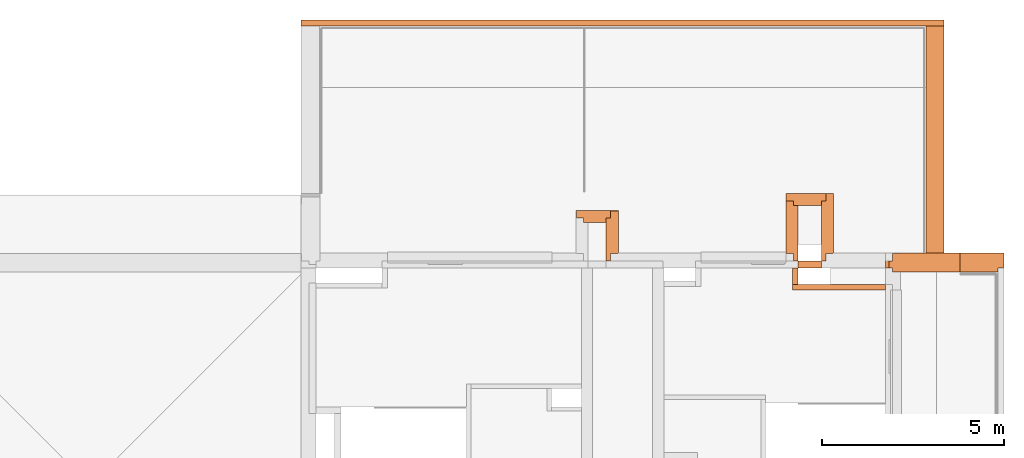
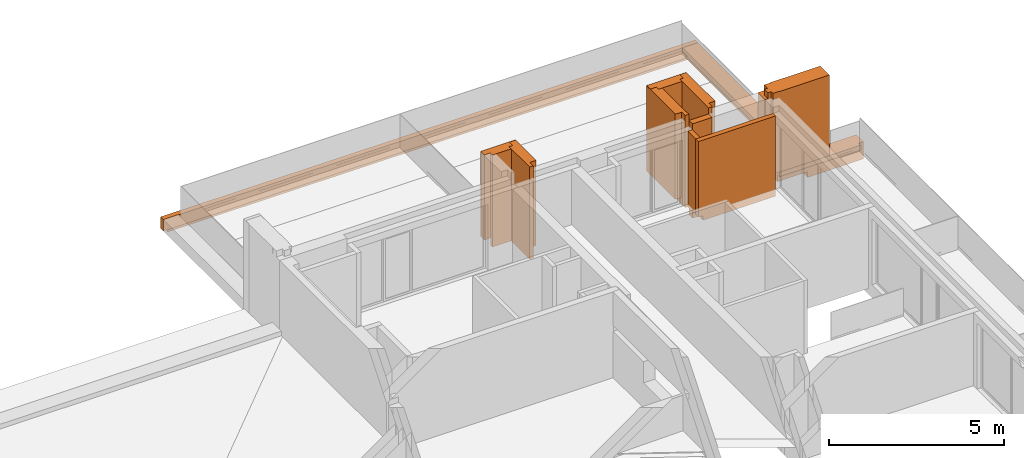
# One storey, part 30 of 30: 12 proxies.
"""IFC2X3 building model written with IfcOpenShell, lengths in millimetres."""

from ifc_helpers import new_model, entity, si_unit, converted_unit, derived_unit, money_unit, direction, frame, origin_with_axes, place, context, subcontext, project, spatial, faceted_brep, material, material_list, type_object, element, save


model = new_model("IFC2X3")

# Units and contexts
model_context = context("Model", 3, precision=0.01, world=origin_with_axes(), true_north=direction((0.34421633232, 0.938890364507)))
body_context = subcontext(model_context, "Body", "Model", "MODEL_VIEW")
ifc_project = project(units=[si_unit("LENGTHUNIT", "METRE", prefix="MILLI"), si_unit("AREAUNIT", "SQUARE_METRE"), si_unit("VOLUMEUNIT", "CUBIC_METRE"), converted_unit("PLANEANGLEUNIT", "DEGREE", entity("IfcPlaneAngleMeasure", 0.0174532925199), si_unit("PLANEANGLEUNIT", "RADIAN"), dimensions=[0, 0, 0, 0, 0, 0, 0]), si_unit("SOLIDANGLEUNIT", "STERADIAN"), money_unit("USD"), converted_unit("TIMEUNIT", "Year", entity("IfcTimeMeasure", 31556926.0), si_unit("TIMEUNIT", "SECOND"), dimensions=[0, 0, 1, 0, 0, 0, 0]), si_unit("MASSUNIT", "GRAM", prefix="KILO"), si_unit("THERMODYNAMICTEMPERATUREUNIT", "DEGREE_CELSIUS"), si_unit("LUMINOUSINTENSITYUNIT", "LUMEN"), si_unit("ENERGYUNIT", "JOULE", prefix="MEGA"), derived_unit("THERMALCONDUCTANCEUNIT", [(si_unit("POWERUNIT", "WATT"), 1), (si_unit("LENGTHUNIT", "METRE"), -1), (si_unit("THERMODYNAMICTEMPERATUREUNIT", "KELVIN"), -1)]), derived_unit("SPECIFICHEATCAPACITYUNIT", [(si_unit("ENERGYUNIT", "JOULE"), 1), (si_unit("MASSUNIT", "GRAM", prefix="KILO"), -1), (si_unit("THERMODYNAMICTEMPERATUREUNIT", "KELVIN"), -1)]), derived_unit("MASSDENSITYUNIT", [(si_unit("MASSUNIT", "GRAM", prefix="KILO"), 1), (si_unit("VOLUMEUNIT", "CUBIC_METRE"), -1)])], contexts=[model_context])

# Site, building, storey
site_placement = place(None, origin_with_axes())
site = spatial("IfcSite", under=ifc_project, at=site_placement, Name="USTRONIE MORSKIE", CompositionType="ELEMENT")
building_placement = place(site_placement, origin_with_axes())
building = spatial("IfcBuilding", under=site, at=building_placement, Name="Budynek", CompositionType="ELEMENT")
storey_placement = place(building_placement, frame((0.0, 0.0, 16000.0), z_axis=(0.0, 0.0, 1.0), x_axis=(1.0, 0.0, 0.0)))
storey = spatial("IfcBuildingStorey", under=building, at=storey_placement, Name="ANTRESOLA - KOND. TECHNICZNA", CompositionType="ELEMENT", Elevation=16000.0)

# Proxies
ifc_material_1 = material(Name="Bloczki silikatowe")
building_element_proxy_type_1 = type_object("IfcBuildingElementProxyType", Name="Bloczki silikatowe 150", PredefinedType="NOTDEFINED")
proxy_1_placement = place(storey_placement, frame((421867.920919, 744151.199036, 0.0), z_axis=(0.0, 0.0, 1.0), x_axis=(0.0, 1.0, 0.0)))
element("IfcBuildingElementProxy", 1, at=proxy_1_placement, inside=storey, type_object=building_element_proxy_type_1, material=ifc_material_1, Name="SW-03", context=body_context, shape_type="Brep", body=[
    faceted_brep([(450.0, 150.0, 0.0), (450.0, 150.0, 2640.0), (450.0, 0.0, 2640.0), (450.0, 0.0, 0.0), (0.0, 150.0, 0.0), (0.0, 150.0, 2640.0), (0.0, 0.0, 2640.0), (0.0, 0.0, 0.0)], [[[0, 1, 2, 3]], [[4, 5, 1, 0]], [[5, 6, 2, 1]], [[3, 2, 6, 7]], [[7, 4, 0, 3]], [[7, 6, 5, 4]]]),
])
proxy_2_placement = place(storey_placement, frame((424367.920919, 744151.199036, -160.0), z_axis=(0.0, 0.0, 1.0), x_axis=(-1.0, 0.0, 0.0)))
element("IfcBuildingElementProxy", 2, at=proxy_2_placement, inside=storey, type_object=building_element_proxy_type_1, material=ifc_material_1, Name="SW-03", context=body_context, shape_type="Brep", body=[
    faceted_brep([(2650.0, 0.0, 160.0), (2650.0, 0.0, 2800.0), (2500.0, 0.0, 2800.0), (100.0, 0.0, 2800.0), (100.0, 0.0, 0.0), (2500.0, 0.0, 0.0), (2500.0, 0.0, 160.0), (2650.0, 150.0, 160.0), (2650.0, 150.0, 2800.0), (100.0, 150.0, 2800.0), (100.0, 150.0, 0.0), (2500.0, 150.0, 0.0), (2500.0, 150.0, 160.0)], [[[0, 1, 2, 3, 4, 5, 6]], [[7, 8, 1, 0]], [[8, 9, 3, 2, 1]], [[4, 3, 9, 10]], [[4, 10, 11, 5]], [[11, 12, 6, 5]], [[6, 12, 7, 0]], [[10, 9, 8, 7, 12, 11]]]),
])
ifc_material_2 = material(Name="Beton konstrukcyjny B25")
building_element_proxy_type_2 = type_object("IfcBuildingElementProxyType", Name="Beton konstrukcyjny B25 200", PredefinedType="NOTDEFINED")
proxy_3_placement = place(storey_placement, frame((421867.920919, 744701.199036, -450.0), z_axis=(0.0, 0.0, 1.0), x_axis=(1.0, 0.0, 0.0)))
element("IfcBuildingElementProxy", 3, at=proxy_3_placement, inside=storey, type_object=building_element_proxy_type_2, material=ifc_material_2, Name="SW-01", context=body_context, shape_type="Brep", body=[
    faceted_brep([(650.0, 100.0, 3290.0), (0.0, 100.0, 3290.0), (0.0, -100.0, 3290.0), (650.0, -100.0, 3290.0), (650.0, 100.0, 0.0), (0.0, 100.0, 0.0), (0.0, -100.0, 0.0), (650.0, -100.0, 0.0)], [[[0, 1, 2, 3]], [[4, 5, 1, 0]], [[1, 5, 6, 2]], [[3, 2, 6, 7]], [[7, 4, 0, 3]], [[7, 6, 5, 4]]]),
])
ifc_material_3 = material(Name="Tynk zewnętrzny")
ifc_material_4 = material(Name="Wełna ELEW")
ifc_material_list_1 = material_list([ifc_material_3, ifc_material_4, ifc_material_2, ifc_material_4, ifc_material_3])
building_element_proxy_type_3 = type_object("IfcBuildingElementProxyType", Name="BALKON bok 01 520", PredefinedType="NOTDEFINED")
proxy_4_placement = place(storey_placement, frame((427432.914603, 744701.199036, -360.000002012), z_axis=(0.0, 0.0, 1.0), x_axis=(-1.0, 0.0, 0.0)))
element("IfcBuildingElementProxy", 4, at=proxy_4_placement, inside=storey, type_object=building_element_proxy_type_3, material=ifc_material_list_1, Name="Œciana-006", context=body_context, shape_type="Brep", body=[
    faceted_brep([(75.0, 210.0, 439.999999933), (2754.99368373, 210.0, 439.999999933), (2754.99368373, 200.0, 439.999999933), (75.0, 200.0, 439.999999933), (75.0, 210.0, 600.000002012), (2754.99368373, 210.0, 600.000002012), (2754.99368373, 200.0, 600.000002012), (75.0, 200.0, 600.000002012)], [[[0, 1, 2, 3]], [[1, 0, 4, 5]], [[2, 1, 5, 6]], [[2, 6, 7, 3]], [[0, 3, 7, 4]], [[7, 6, 5, 4]]]),
    faceted_brep([(75.0, 200.0, 439.999999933), (2754.99368373, 200.0, 439.999999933), (2754.99368373, 99.9999999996, 439.999999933), (1764.99368373, 99.9999999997, 439.999999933), (75.0, 99.9999999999, 439.999999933), (75.0, 200.0, 600.000002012), (2754.99368373, 200.0, 600.000002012), (2754.99368373, 99.9999999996, 600.000002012), (75.0, 99.9999999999, 600.000002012)], [[[0, 1, 2, 3, 4]], [[1, 0, 5, 6]], [[2, 1, 6, 7]], [[3, 2, 7, 8, 4]], [[0, 4, 8, 5]], [[8, 7, 6, 5]]]),
    faceted_brep([(1764.99368373, -100.0, 199.999999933), (2754.99368373, -100.0, 199.999999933), (2754.99368373, -100.0, 600.000002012), (-75.0, -100.0, 600.000002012), (-75.0, -100.0, 0.0), (1764.99368373, -100.0, -6.70787869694e-08), (1764.99368373, 99.9999999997, 199.999999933), (2754.99368373, 99.9999999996, 199.999999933), (2754.99368373, 99.9999999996, 600.000002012), (-75.0, 100.0, 600.000002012), (-75.0, 100.0, 0.0), (1764.99368373, 99.9999999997, -6.70787869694e-08)], [[[0, 1, 2, 3, 4, 5]], [[1, 0, 6, 7]], [[1, 7, 8, 2]], [[3, 2, 8, 9]], [[9, 10, 4, 3]], [[11, 5, 4, 10]], [[0, 5, 11, 6]], [[6, 11, 10, 9, 8, 7]]]),
    faceted_brep([(1764.99368373, -100.0, 0.0), (1764.99368373, -300.0, 0.0), (-85.0, -300.0, 0.0), (-85.0, -100.0, 0.0), (1764.99368373, -100.0, 600.000002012), (1764.99368373, -300.0, 600.000002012), (-85.0, -300.0, 600.000002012), (-85.0, -100.0, 600.000002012)], [[[0, 1, 2, 3]], [[1, 0, 4, 5]], [[1, 5, 6, 2]], [[7, 3, 2, 6]], [[4, 0, 3, 7]], [[5, 4, 7, 6]]]),
    faceted_brep([(1944.99368373, -100.0, 439.999999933), (1944.99368373, -300.0, 439.999999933), (1944.99368373, -300.0, 600.000002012), (1944.99368373, -100.0, 600.000002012), (2754.99368373, -300.0, 439.999999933), (2754.99368373, -100.0, 439.999999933), (2754.99368373, -300.0, 600.000002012), (2754.99368373, -100.0, 600.000002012)], [[[0, 1, 2, 3]], [[4, 1, 0, 5]], [[1, 4, 6, 2]], [[2, 6, 7, 3]], [[5, 0, 3, 7]], [[4, 5, 7, 6]]]),
    faceted_brep([(2044.99368373, -300.0, 439.999999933), (2044.99368373, -310.0, 439.999999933), (2044.99368373, -310.0, 600.000002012), (2044.99368373, -300.0, 600.000002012), (2754.99368373, -310.0, 439.999999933), (2754.99368373, -300.0, 439.999999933), (2754.99368373, -310.0, 600.000002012), (2754.99368373, -300.0, 600.000002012)], [[[0, 1, 2, 3]], [[4, 1, 0, 5]], [[1, 4, 6, 2]], [[2, 6, 7, 3]], [[5, 0, 3, 7]], [[4, 5, 7, 6]]]),
    faceted_brep([(1564.99368373, -310.0, 0.0), (-85.0, -310.0, 0.0), (-85.0, -300.0, 0.0), (1564.99368373, -300.0, 0.0), (1564.99368373, -310.0, 600.000002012), (-85.0, -310.0, 600.000002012), (-85.0, -300.0, 600.000002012), (1564.99368373, -300.0, 600.000002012)], [[[0, 1, 2, 3]], [[4, 5, 1, 0]], [[2, 1, 5, 6]], [[3, 2, 6, 7]], [[3, 7, 4, 0]], [[7, 6, 5, 4]]]),
])
proxy_5_placement = place(storey_placement, frame((424367.920919, 744701.199036, 240.0), z_axis=(0.0, 0.0, 1.0), x_axis=(1.0, 0.0, 0.0)))
element("IfcBuildingElementProxy", 5, at=proxy_5_placement, inside=storey, type_object=building_element_proxy_type_3, material=ifc_material_list_1, Name="Œciana-007", context=body_context, shape_type="Brep", body=[
    faceted_brep([(100.0, 309.999999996, 2600.0), (300.0, 309.999999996, 2600.0), (300.0, 309.999999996, 2810.0), (1950.0, 310.0, 2810.0), (1950.0, 310.0, 0.0), (-100.0, 310.0, 0.0), (-100.0, 310.0, 2600.0), (0.0, 309.999999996, 2600.0), (100.0, 300.0, 2600.0), (300.0, 300.0, 2600.0), (300.0, 300.0, 2810.0), (1950.0, 300.0, 2810.0), (1950.0, 300.0, 0.0), (-100.0, 300.0, 0.0), (-100.0, 300.0, 2600.0), (0.0, 300.0, 2600.0)], [[[0, 1, 2, 3, 4, 5, 6, 7]], [[1, 0, 8, 9]], [[10, 2, 1, 9]], [[2, 10, 11, 3]], [[4, 3, 11, 12]], [[12, 13, 5, 4]], [[13, 14, 6, 5]], [[15, 7, 6, 14]], [[8, 0, 7, 15]], [[9, 8, 15, 14, 13, 12, 11, 10]]]),
    faceted_brep([(0.0, 300.0, 2600.0), (100.0, 300.0, 2600.0), (100.0, 300.0, 2810.0), (1950.0, 300.0, 2810.0), (1950.0, 300.0, 0.0), (-100.0, 300.0, 0.0), (-100.0, 300.0, 2600.0), (0.0, 100.0, 2600.0), (100.0, 100.0, 2600.0), (100.0, 100.0, 2810.0), (1950.0, 100.0, 2810.0), (1950.0, 100.0, 0.0), (-100.0, 100.0, 0.0), (-100.0, 100.0, 2600.0)], [[[0, 1, 2, 3, 4, 5, 6]], [[1, 0, 7, 8]], [[9, 2, 1, 8]], [[2, 9, 10, 3]], [[4, 3, 10, 11]], [[11, 12, 5, 4]], [[12, 13, 6, 5]], [[7, 0, 6, 13]], [[8, 7, 13, 12, 11, 10, 9]]]),
    faceted_brep([(1950.0, 100.0, 0.0), (-100.0, 100.0, 0.0), (-100.0, 100.0, 2600.0), (0.0, 100.0, 2600.0), (0.0, 100.0, 2810.00000179), (1950.0, 100.0, 2810.0), (1950.0, -99.9999999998, 0.0), (-100.0, -100.0, 0.0), (-100.0, -100.0, 2600.0), (0.0, -100.0, 2600.0), (0.0, -100.0, 2810.00000179), (1950.0, -99.9999999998, 2810.0)], [[[0, 1, 2, 3, 4, 5]], [[6, 7, 1, 0]], [[7, 8, 2, 1]], [[3, 2, 8, 9]], [[9, 10, 4, 3]], [[5, 4, 10, 11]], [[0, 5, 11, 6]], [[9, 8, 7, 6, 11, 10]]]),
    faceted_brep([(100.0, -100.0, 2600.0), (100.0, -100.0, 2810.0), (1950.0, -99.9999999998, 2810.0), (1950.0, -99.9999999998, 0.0), (100.0, -100.0, 0.0), (100.0, -200.0, 2810.0), (100.0, -200.0, 2600.0), (1950.0, -200.0, 2810.0), (1950.0, -200.0, 0.0), (100.0, -200.0, 0.0)], [[[0, 1, 2, 3, 4]], [[5, 1, 0, 6]], [[1, 5, 7, 2]], [[3, 2, 7, 8]], [[9, 4, 3, 8]], [[6, 0, 4, 9]], [[5, 6, 9, 8, 7]]]),
    faceted_brep([(300.0, -200.0, 2600.0), (300.0, -200.0, 2810.0), (1950.0, -200.0, 2810.0), (1950.0, -200.0, 0.0), (300.0, -200.0, 0.0), (300.0, -210.0, 2810.0), (300.0, -210.0, 2600.0), (1950.0, -210.0, 2810.0), (1950.0, -210.0, 0.0), (300.0, -210.0, 0.0)], [[[0, 1, 2, 3, 4]], [[5, 1, 0, 6]], [[1, 5, 7, 2]], [[3, 2, 7, 8]], [[9, 4, 3, 8]], [[6, 0, 4, 9]], [[5, 6, 9, 8, 7]]]),
])
ifc_material_list_2 = material_list([ifc_material_3, ifc_material_4, ifc_material_1, ifc_material_4, ifc_material_3])
building_element_proxy_type_4 = type_object("IfcBuildingElementProxyType", Name="18 SILIKAT+20-10 500", PredefinedType="NOTDEFINED")
proxy_6_placement = place(storey_placement, frame((425667.920919, 751316.196933, -360.00000208), z_axis=(0.0, 0.0, 1.0), x_axis=(0.0, -1.0, 0.0)))
element("IfcBuildingElementProxy", 6, at=proxy_6_placement, inside=storey, type_object=building_element_proxy_type_4, material=ifc_material_list_2, Name="Œciana-006", context=body_context, shape_type="Brep", body=[
    faceted_brep([(6304.99789687, 200.0, 600.00000208), (6304.99789687, 210.0, 600.00000208), (75.0, 210.0, 600.00000208), (75.0, 200.0, 600.00000208), (6304.99789687, 200.0, 0.0), (6304.99789687, 210.0, 0.0), (75.0, 210.0, 0.0), (75.0, 200.0, 0.0)], [[[0, 1, 2, 3]], [[1, 0, 4, 5]], [[1, 5, 6, 2]], [[7, 3, 2, 6]], [[4, 0, 3, 7]], [[5, 4, 7, 6]]]),
    faceted_brep([(6314.99789687, 0.0, 600.00000208), (6314.99789687, 200.0, 600.00000208), (75.0, 200.0, 600.00000208), (75.0, 0.0, 600.00000208), (6314.99789687, 0.0, 0.0), (6314.99789687, 200.0, 0.0), (75.0, 200.0, 0.0), (75.0, 0.0, 0.0)], [[[0, 1, 2, 3]], [[1, 0, 4, 5]], [[1, 5, 6, 2]], [[7, 3, 2, 6]], [[4, 0, 3, 7]], [[5, 4, 7, 6]]]),
    faceted_brep([(6514.99789687, 2.84217094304e-10, 200.0), (75.0, 0.0, 200.0), (75.0, 0.0, 600.00000208), (6514.99789687, 0.0, 600.00000208), (6514.99789687, -180.0, 200.0), (75.0, -180.0, 200.0), (75.0, -180.0, 600.00000208), (6514.99789687, -180.0, 600.00000208)], [[[0, 1, 2, 3]], [[1, 0, 4, 5]], [[1, 5, 6, 2]], [[7, 3, 2, 6]], [[4, 0, 3, 7]], [[4, 7, 6, 5]]]),
    faceted_brep([(6314.99789687, -180.0, 440.0), (75.0, -180.0, 440.0), (75.0, -180.0, 600.00000208), (6314.99789687, -180.0, 600.00000208), (6314.99789687, -280.0, 440.0), (75.0, -280.0, 440.0), (75.0, -280.0, 600.00000208), (6314.99789687, -280.0, 600.00000208)], [[[0, 1, 2, 3]], [[1, 0, 4, 5]], [[1, 5, 6, 2]], [[7, 3, 2, 6]], [[4, 0, 3, 7]], [[4, 7, 6, 5]]]),
    faceted_brep([(6304.99789687, -280.0, 440.0), (75.0, -280.0, 440.0), (75.0, -280.0, 600.00000208), (6304.99789687, -280.0, 600.00000208), (6304.99789687, -290.0, 440.0), (75.0, -290.0, 440.0), (75.0, -290.0, 600.00000208), (6304.99789687, -290.0, 600.00000208)], [[[0, 1, 2, 3]], [[1, 0, 4, 5]], [[1, 5, 6, 2]], [[7, 3, 2, 6]], [[4, 0, 3, 7]], [[4, 7, 6, 5]]]),
])
ifc_material_list_3 = material_list([ifc_material_1, ifc_material_4, ifc_material_3])
building_element_proxy_type_5 = type_object("IfcBuildingElementProxyType", Name="12+20 330", PredefinedType="NOTDEFINED")
proxy_7_placement = place(storey_placement, frame((416737.920089, 744701.199036, -160.0), z_axis=(0.0, 0.0, 1.0), x_axis=(0.0, 1.0, 0.0)))
element("IfcBuildingElementProxy", 7, at=proxy_7_placement, inside=storey, type_object=building_element_proxy_type_5, material=ifc_material_list_3, Name="Ściana-009", context=body_context, shape_type="Brep", body=[
    faceted_brep([(1269.99914858, 120.0, 3210.0), (100.0, 120.0, 3210.0), (100.0, 0.0, 3210.0), (1269.99914858, 0.0, 3210.0), (100.0, 120.0, 0.0), (100.0, 120.0, 3000.0), (1269.99914858, 120.0, 0.0), (100.0, 0.0, 0.0), (1269.99914858, 0.0, 0.0)], [[[0, 1, 2, 3]], [[4, 5, 1, 0, 6]], [[7, 2, 1, 5, 4]], [[3, 2, 7, 8]], [[0, 3, 8, 6]], [[8, 7, 4, 6]]]),
    faceted_brep([(300.0, -200.0, 239.99999792), (1469.99914858, -200.0, 239.99999792), (1469.99914858, -200.0, 3210.0), (300.0, -200.0, 3210.0), (1469.99914858, 0.0, 239.99999792), (300.0, 0.0, 239.99999792), (1469.99914858, 0.0, 3210.0), (300.0, 0.0, 3210.0)], [[[0, 1, 2, 3]], [[4, 1, 0, 5]], [[1, 4, 6, 2]], [[6, 7, 3, 2]], [[5, 0, 3, 7]], [[4, 5, 7, 6]]]),
    faceted_brep([(310.0, -210.0, 239.99999792), (1479.99914858, -210.0, 239.99999792), (1479.99914858, -210.0, 3210.0), (310.0, -210.0, 3210.0), (1479.99914858, -200.0, 239.99999792), (310.0, -200.0, 239.99999792), (1479.99914858, -200.0, 3210.0), (310.0, -200.0, 3210.0)], [[[0, 1, 2, 3]], [[4, 1, 0, 5]], [[1, 4, 6, 2]], [[6, 7, 3, 2]], [[5, 0, 3, 7]], [[4, 5, 7, 6]]]),
])
proxy_8_placement = place(storey_placement, frame((422577.920919, 744701.199036, -160.0), z_axis=(0.0, 0.0, 1.0), x_axis=(0.0, 1.0, 0.0)))
element("IfcBuildingElementProxy", 8, at=proxy_8_placement, inside=storey, type_object=building_element_proxy_type_5, material=ifc_material_list_3, Name="Ściana-009", context=body_context, shape_type="Brep", body=[
    faceted_brep([(100.0, 60.0, 3210.0), (100.0, -60.0, 3210.0), (1740.0, -60.0, 3210.0), (1740.0, 60.0, 3210.0), (100.0, -60.0, 3000.0), (100.0, 60.0, 3000.0), (100.0, -60.0, 0.0), (1740.0, -60.0, 0.0), (1740.0, 60.0, 0.0), (100.0, 60.0, 0.0)], [[[0, 1, 2, 3]], [[4, 1, 0, 5]], [[1, 4, 6, 7, 2]], [[2, 7, 8, 3]], [[5, 0, 3, 8, 9]], [[4, 5, 9, 6]], [[6, 9, 8, 7]]]),
    faceted_brep([(1940.0, -260.0, 239.99999792), (1940.0, -260.0, 3210.0), (300.0, -260.0, 3210.0), (300.0, -260.0, 239.99999792), (1940.0, -60.0, 239.99999792), (1940.0, -60.0, 3210.0), (300.0, -60.0, 3210.0), (300.0, -60.0, 239.99999792)], [[[0, 1, 2, 3]], [[0, 4, 5, 1]], [[5, 6, 2, 1]], [[7, 3, 2, 6]], [[4, 0, 3, 7]], [[4, 7, 6, 5]]]),
    faceted_brep([(550.0, -270.0, 239.99999792), (1950.0, -270.0, 239.99999792), (1950.0, -270.0, 3210.0), (310.0, -270.0, 3210.0), (310.0, -270.0, 239.99999792), (1950.0, -260.0, 239.99999792), (550.0, -260.0, 239.99999792), (1950.0, -260.0, 3210.0), (310.0, -260.0, 3210.0), (310.0, -260.0, 239.99999792)], [[[0, 1, 2, 3, 4]], [[5, 1, 0, 6]], [[1, 5, 7, 2]], [[7, 8, 3, 2]], [[9, 4, 3, 8]], [[6, 0, 4, 9]], [[5, 6, 9, 8, 7]]]),
])
proxy_9_placement = place(storey_placement, frame((421807.920919, 746381.199036, -160.0), z_axis=(0.0, 0.0, 1.0), x_axis=(0.0, -1.0, 0.0)))
element("IfcBuildingElementProxy", 9, at=proxy_9_placement, inside=storey, type_object=building_element_proxy_type_5, material=ifc_material_list_3, Name="Ściana-009", context=body_context, shape_type="Brep", body=[
    faceted_brep([(60.0000000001, -59.9999999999, 3210.0), (1580.0, -59.9999999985, 3210.0), (1580.0, 60.0, 3210.0), (59.9999999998, 60.0000000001, 3210.0), (1580.0, -59.9999999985, 0.0), (60.0000000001, -59.9999999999, 0.0), (1580.0, 60.0, 0.0), (59.9999999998, 60.0000000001, 0.0)], [[[0, 1, 2, 3]], [[4, 1, 0, 5]], [[6, 2, 1, 4]], [[3, 2, 6, 7]], [[5, 0, 3, 7]], [[7, 6, 4, 5]]]),
    faceted_brep([(1380.0, -59.9999999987, 239.99999792), (-59.9999999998, -60.0000000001, 239.99999792), (-59.9999999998, -60.0000000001, 3210.0), (1380.0, -59.9999999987, 3210.0), (1380.0, -259.999999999, 239.99999792), (-59.9999999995, -260.0, 239.99999792), (-59.9999999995, -260.0, 3210.0), (1380.0, -259.999999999, 3210.0)], [[[0, 1, 2, 3]], [[1, 0, 4, 5]], [[1, 5, 6, 2]], [[6, 7, 3, 2]], [[4, 0, 3, 7]], [[4, 7, 6, 5]]]),
    faceted_brep([(1370.0, -259.999999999, 239.99999792), (-260.0, -260.0, 239.99999792), (-260.0, -260.0, 3210.0), (1370.0, -259.999999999, 3210.0), (1370.0, -269.999999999, 239.99999792), (-260.0, -270.0, 239.99999792), (-260.0, -270.0, 3210.0), (1370.0, -269.999999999, 3210.0)], [[[0, 1, 2, 3]], [[1, 0, 4, 5]], [[1, 5, 6, 2]], [[6, 7, 3, 2]], [[4, 0, 3, 7]], [[4, 7, 6, 5]]]),
])
ifc_material_list_4 = material_list([ifc_material_3, ifc_material_4, ifc_material_1])
proxy_10_placement = place(storey_placement, frame((421807.920919, 746381.199036, -160.0), z_axis=(0.0, 0.0, 1.0), x_axis=(1.0, 0.0, 0.0)))
element("IfcBuildingElementProxy", 10, at=proxy_10_placement, inside=storey, type_object=building_element_proxy_type_5, material=ifc_material_list_4, Name="Ściana-009", context=body_context, shape_type="Brep", body=[
    faceted_brep([(1030.0, 259.999999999, 239.99999792), (1030.0, 269.999999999, 239.99999792), (1030.0, 269.999999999, 3210.0), (1030.0, 259.999999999, 3210.0), (-270.0, 270.0, 239.99999792), (-270.0, 260.0, 239.99999792), (-270.0, 270.0, 3210.0), (-270.0, 260.0, 3210.0)], [[[0, 1, 2, 3]], [[4, 1, 0, 5]], [[1, 4, 6, 2]], [[3, 2, 6, 7]], [[5, 0, 3, 7]], [[4, 5, 7, 6]]]),
    faceted_brep([(829.999999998, 59.9999999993, 239.99999792), (829.999999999, 259.999999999, 239.99999792), (829.999999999, 259.999999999, 3210.0), (829.999999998, 59.9999999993, 3210.0), (-260.0, 260.0, 239.99999792), (-260.0, 60.0000000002, 239.99999792), (-260.0, 260.0, 3210.0), (-260.0, 60.0000000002, 3210.0)], [[[0, 1, 2, 3]], [[4, 1, 0, 5]], [[1, 4, 6, 2]], [[3, 2, 6, 7]], [[5, 0, 3, 7]], [[4, 5, 7, 6]]]),
    faceted_brep([(709.999999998, 59.9999999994, 3210.0), (-59.9999999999, 60.0000000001, 3210.0), (-60.0000000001, -59.9999999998, 3210.0), (709.999999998, -60.0000000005, 3210.0), (709.999999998, 59.9999999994, 0.0), (-59.9999999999, 60.0000000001, 0.0), (-60.0000000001, -59.9999999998, 0.0), (709.999999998, -60.0000000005, 0.0)], [[[0, 1, 2, 3]], [[4, 5, 1, 0]], [[2, 1, 5, 6]], [[3, 2, 6, 7]], [[3, 7, 4, 0]], [[7, 6, 5, 4]]]),
])
proxy_11_placement = place(storey_placement, frame((416737.920089, 745971.198185, -160.0), z_axis=(0.0, 0.0, 1.0), x_axis=(-1.0, 0.0, 0.0)))
element("IfcBuildingElementProxy", 11, at=proxy_11_placement, inside=storey, type_object=building_element_proxy_type_5, material=ifc_material_list_3, Name="Ściana-009", context=body_context, shape_type="Brep", body=[
    faceted_brep([(739.999148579, 0.0, 0.0), (120.0, 0.0, 0.0), (120.0, 120.0, 0.0), (739.999148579, 120.0, 0.0), (739.999148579, 0.0, 3210.0), (120.0, 0.0, 3210.0), (120.0, 120.0, 3210.0), (739.999148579, 120.0, 3210.0)], [[[0, 1, 2, 3]], [[4, 5, 1, 0]], [[2, 1, 5, 6]], [[3, 2, 6, 7]], [[3, 7, 4, 0]], [[7, 6, 5, 4]]]),
    faceted_brep([(0.0, 0.0, 239.99999792), (0.0, -200.0, 239.99999792), (0.0, -200.0, 3210.0), (0.0, 0.0, 3210.0), (939.999148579, -200.0, 239.99999792), (939.999148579, 0.0, 239.99999792), (939.999148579, -200.0, 3210.0), (939.999148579, 0.0, 3210.0)], [[[0, 1, 2, 3]], [[4, 1, 0, 5]], [[1, 4, 6, 2]], [[6, 7, 3, 2]], [[5, 0, 3, 7]], [[4, 5, 7, 6]]]),
    faceted_brep([(-200.0, -200.0, 239.99999792), (-200.0, -210.0, 239.99999792), (-200.0, -210.0, 3210.0), (-200.0, -200.0, 3210.0), (949.999148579, -210.0, 239.99999792), (949.999148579, -200.0, 239.99999792), (949.999148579, -210.0, 3210.0), (949.999148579, -200.0, 3210.0)], [[[0, 1, 2, 3]], [[4, 1, 0, 5]], [[1, 4, 6, 2]], [[6, 7, 3, 2]], [[5, 0, 3, 7]], [[4, 5, 7, 6]]]),
])
ifc_material_5 = material(Name="Tynk wewnętrzny")
ifc_material_list_5 = material_list([ifc_material_5, ifc_material_2, ifc_material_5])
building_element_proxy_type_6 = type_object("IfcBuildingElementProxyType", Name="15+2xTYNK 170", PredefinedType="NOTDEFINED")
proxy_12_placement = place(storey_placement, frame((425667.920919, 751316.196933, -360.0), z_axis=(0.0, 0.0, 1.0), x_axis=(-1.0, 0.0, 0.0)))
element("IfcBuildingElementProxy", 12, at=proxy_12_placement, inside=storey, type_object=building_element_proxy_type_6, material=ifc_material_list_5, Name="Œciana-006", context=body_context, shape_type="Brep", body=[
    faceted_brep([(290.0, 85.0000000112, 439.99999792), (290.0, 75.0, 439.99999792), (290.0, 75.0, 599.99999993), (290.0, 85.0, 599.99999993), (16910.0, 75.0, 439.99999792), (16910.0, 85.0, 439.99999792), (16910.0, 75.0, 600.0), (16910.0, 85.0, 600.0)], [[[0, 1, 2, 3]], [[4, 1, 0, 5]], [[1, 4, 6, 2]], [[2, 6, 7, 3]], [[5, 0, 3, 7]], [[4, 5, 7, 6]]]),
    faceted_brep([(0.0, -75.0, 199.99999792), (17200.0, -75.0, 199.99999792), (17410.0, -75.0, 199.99999792), (17410.0, -75.0, 599.99999792), (-210.0, -75.0, 599.999999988), (-210.0, -75.0, 0.0), (0.0, -75.0, -2.07957384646e-06), (0.0, 75.0, 199.99999792), (17200.0, 75.0, 199.99999792), (17410.0, 75.0, 199.99999792), (17410.0, 75.0, 599.99999792), (-210.0, 75.0, 599.999999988), (-210.0, 75.0, 0.0), (0.0, 75.0, -2.07957384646e-06)], [[[0, 1, 2, 3, 4, 5, 6]], [[1, 0, 7, 8]], [[1, 8, 9, 2]], [[9, 10, 3, 2]], [[4, 3, 10, 11]], [[5, 4, 11, 12]], [[13, 6, 5, 12]], [[0, 6, 13, 7]], [[7, 13, 12, 11, 10, 9, 8]]]),
    faceted_brep([(17410.0, -85.0, 199.99999792), (17410.0, -85.0, 599.99999792), (-210.0, -85.0, 599.999999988), (-210.0, -85.0, 0.0), (17200.0, -85.0, 0.0), (17200.0, -85.0, 199.99999792), (17410.0, -75.0, 599.99999792), (17410.0, -75.0, 199.99999792), (-210.0, -75.0, 599.999999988), (-210.0, -75.0, 0.0), (17200.0, -75.0, 0.0), (17200.0, -75.0, 199.99999792)], [[[0, 1, 2, 3, 4, 5]], [[6, 1, 0, 7]], [[1, 6, 8, 2]], [[2, 8, 9, 3]], [[10, 4, 3, 9]], [[5, 4, 10, 11]], [[7, 0, 5, 11]], [[6, 7, 11, 10, 9, 8]]]),
])

save(model, "model.ifc")
